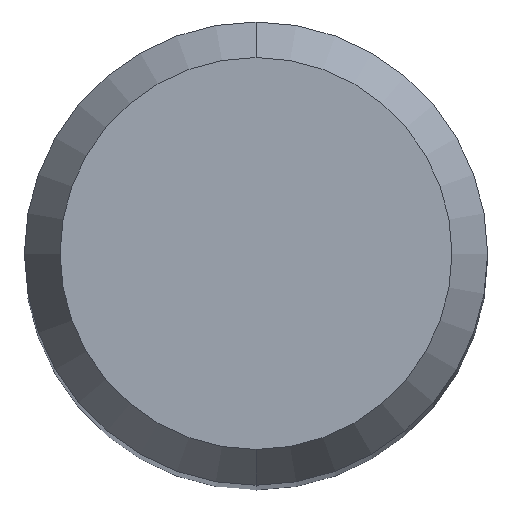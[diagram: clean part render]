
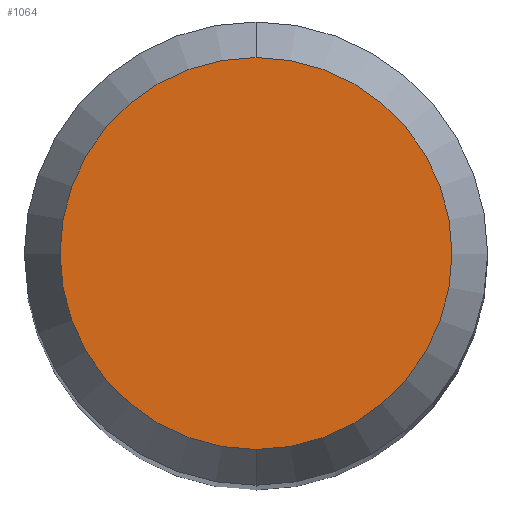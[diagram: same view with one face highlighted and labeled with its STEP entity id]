
A CAD part, top view. The second image highlights one B-rep face of the part: STEP entity #1064.
In plain terms, the highlighted planar face has unit normal (0, 0, 1).
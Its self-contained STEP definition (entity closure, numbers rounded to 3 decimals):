
#822=EDGE_CURVE('',#1008,#1942,#2255,.T.);
#1008=VERTEX_POINT('',#2462);
#1064=ADVANCED_FACE('',(#2525),#2526,.T.);
#1258=EDGE_CURVE('',#1942,#1008,#2736,.T.);
#1942=VERTEX_POINT('',#3482);
#2255=CIRCLE('',#4502,2.538);
#2462=CARTESIAN_POINT('',(0.,-2.538,0.0));
#2525=FACE_OUTER_BOUND('',#7032,.T.);
#2526=PLANE('',#7033);
#2736=CIRCLE('',#8863,2.538);
#3482=CARTESIAN_POINT('',(0.0,2.538,0.0));
#4502=AXIS2_PLACEMENT_3D('',#18003,#18004,#18005);
#7032=EDGE_LOOP('',(#18288,#18289));
#7033=AXIS2_PLACEMENT_3D('',#18290,#18291,#18292);
#8863=AXIS2_PLACEMENT_3D('',#18511,#18512,#18513);
#18003=CARTESIAN_POINT('',(0.0,0.0,0.0));
#18004=DIRECTION('',(0.0,0.0,-1.0));
#18005=DIRECTION('',(0.0,1.0,0.0));
#18288=ORIENTED_EDGE('',*,*,#1258,.F.);
#18289=ORIENTED_EDGE('',*,*,#822,.F.);
#18290=CARTESIAN_POINT('',(0.0,1.269,0.0));
#18291=DIRECTION('',(-0.0,0.0,1.0));
#18292=DIRECTION('',(0.0,-1.0,0.0));
#18511=CARTESIAN_POINT('',(0.0,0.0,0.0));
#18512=DIRECTION('',(0.0,0.0,-1.0));
#18513=DIRECTION('',(0.0,1.0,0.0));
